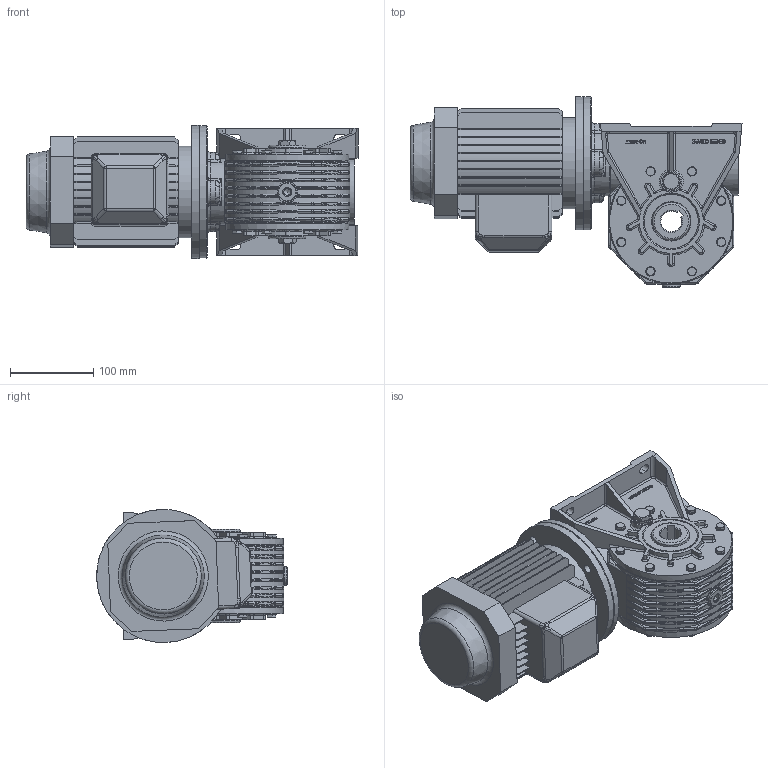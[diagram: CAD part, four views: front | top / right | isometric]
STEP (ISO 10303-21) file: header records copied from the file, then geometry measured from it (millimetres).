
FILE_DESCRIPTION((''),'2;1');
FILE_NAME('Y:\Archivi Inventor\Prog_01\GRAND_30\Figurini\MRV30 sito\71\MRV30_P1_71_B5.stp','2013-02-06T09:08:29',('tech3'),(''),'Autodesk Inventor 2013','Autodesk Inventor 2013','');
FILE_SCHEMA(('AUTOMOTIVE_DESIGN { 1 0 10303 214 1 1 1 1 }'));
Length unit declared in the file: millimetre
Products named in the file (16): MRV30_71_B5; MRV30; 0103001-A2 fig; 0103008.A1 fig F=25; PARAOLIO 45x65x10; RCA_52x7; Guarnizione 3_8 GAS; Tappo 3_8 GAS_esagn_incsst; 0103010-A0 fig; 0103029; DIN EN 24017 M6 x 20; Tappo3_8 GAS; 0103028; UNI 5931 M 8 x  25; 0103006; motori B5 71
Assembly tree (41 placements, depth 3):
  MRV30_71_B5
    MRV30
      0103001-A2 fig
      0103008.A1 fig F=25
      PARAOLIO 45x65x10  x2
      RCA_52x7
      Guarnizione 3_8 GAS  x4
      Tappo 3_8 GAS_esagn_incsst  x2
      0103010-A0 fig  x2
      0103029  x2
      DIN EN 24017 M6 x 20  x16
      Tappo3_8 GAS  x2
      0103028
      UNI 5931 M 8 x  25  x4
    0103006
    motori B5 71
Bounding box: 398.9 x 229 x 159.87 mm (x, y, z)
Volume: 4926544.3 mm3; surface area: 745942.9 mm2
Topology: 40 solids, 43 shells, 2641 faces, 6486 edges, 3990 vertices
Faces by surface type: plane 1359, cylinder 629, bspline 304, cone 160, torus 157, sphere 32
Full cylindrical faces by diameter (mm): 2 x2, 4.917 x16, 6 x16, 6.5 x32, 6.647 x4, 8 x6, 8.5 x8, 8.88 x16, 10 x4, 11 x16, 13 x4, 13.046 x2, 14 x1, 14.95 x4, 16.3 x4, 16.5 x2, 22 x8, 25 x3, 43 x1, 45 x4, 45.76 x1, 50.881 x2, 52 x6, 55 x1, 60.5 x2, 65 x4, 75 x2, 77 x1, 78 x1, 79 x1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
Entity records: 60592 total; most frequent: CARTESIAN_POINT 18919, ORIENTED_EDGE 8312, DIRECTION 8254, EDGE_CURVE 4156, AXIS2_PLACEMENT_3D 3002, VERTEX_POINT 2655, VECTOR 2250, LINE 2250
